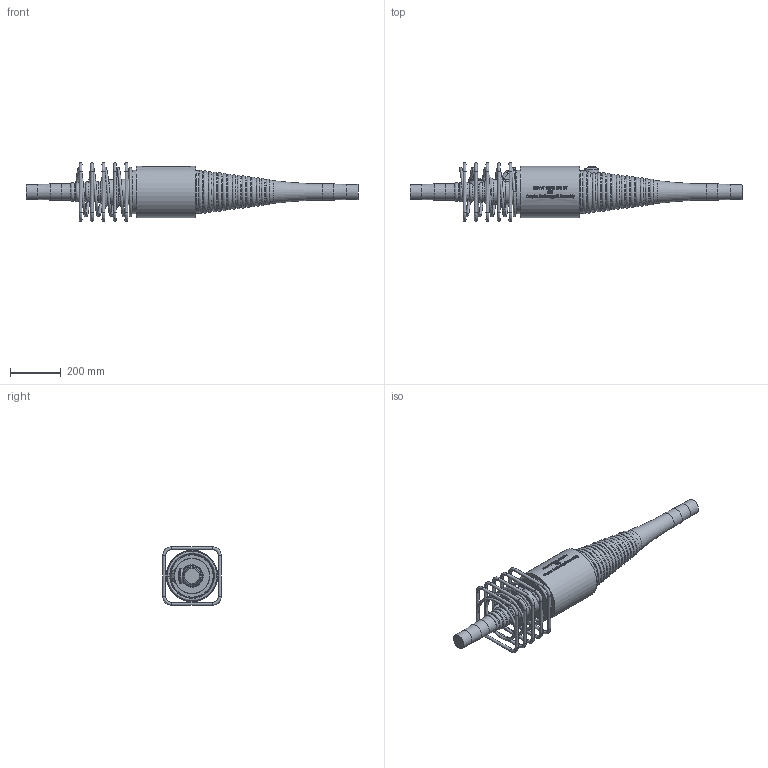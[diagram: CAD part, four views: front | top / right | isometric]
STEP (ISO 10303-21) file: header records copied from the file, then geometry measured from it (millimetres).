
FILE_DESCRIPTION(/* description */ (''),/* implementation_level */ '2;1');
FILE_NAME(/* name */ 'BBR VT CONA CMI BT 606_Coupler H Assembly_CS-34,28.stp',/* time_stamp */ '2025-04-30T10:39:30+02:00',/* author */ ('tk'),/* organization */ (''),/* preprocessor_version */ 'ST-DEVELOPER v20',/* originating_system */ 'Autodesk Inventor 2024',/* authorisation */ '');
FILE_SCHEMA (('AUTOMOTIVE_DESIGN { 1 0 10303 214 3 1 1 }'));
Products named in the file (1): BBR VT CONA CMI BT 606_Coupler H Assembly_CS-34,28
Bounding box: 1303 x 230 x 230 mm (x, y, z)
Volume: 16414425.3 mm3; surface area: 790519.7 mm2
Topology: 7 solids, 7 shells, 945 faces, 2495 edges, 1615 vertices
Faces by surface type: bspline 387, plane 294, torus 110, cylinder 105, cone 25, sphere 24
Full cylindrical faces by diameter (mm): 12 x20, 34 x2, 57 x2, 59 x2, 64 x2, 133.801 x1, 139.387 x1, 170 x1, 203 x1
Entity records: 42299 total; most frequent: CARTESIAN_POINT 20543, ORIENTED_EDGE 4978, DIRECTION 3588, EDGE_CURVE 2489, VERTEX_POINT 1615, AXIS2_PLACEMENT_3D 1320, EDGE_LOOP 1012, LINE 948
